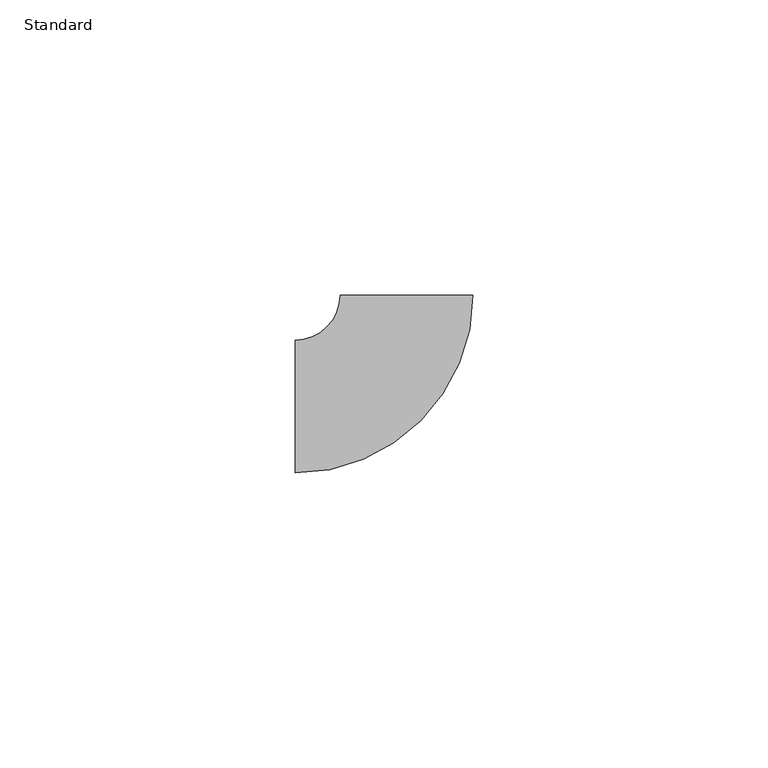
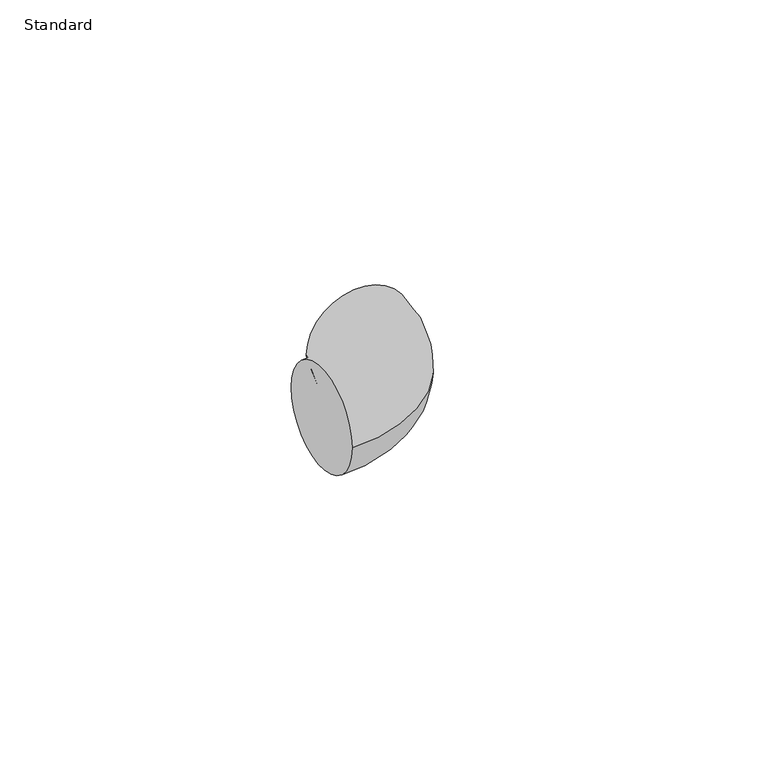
"""IFC4 building model written with IfcOpenShell, lengths in millimetres: pipe fitting geometry, Coude - Générique1 : Standard."""

import ifcopenshell
import ifcopenshell.guid

model = None  # the IFC model being written
_history = None  # IfcOwnerHistory: only IFC2X3 demands one
_inside = {}  # id of a spatial element -> (the spatial element, [elements in it])
_under = {}  # id of a project, library or spatial element -> (it, [spatial elements below it])
_declared = {}  # id of a project -> (the project, [libraries it declares])
_typed = {}  # id of a type object -> (the type object, [elements of that type])
_made_of = {}  # id of a material, layer set ... -> (it, [elements and type objects made of it])


def new_model(schema):
    """Start an empty IFC model of exactly this schema.

    Asked for "IFC4X3", IfcOpenShell would pick the latest addendum, in which some entities
    have other attributes; the version numbers below select the first issue.
    IFC2X3 requires an IfcOwnerHistory on every rooted entity: one is made here for all.
    """
    global model, _history
    if schema == "IFC4X3":
        model = ifcopenshell.file(schema_version=(4, 3, 0, 0))
    else:
        model = ifcopenshell.file(schema=schema)
    _inside.clear()
    _under.clear()
    _declared.clear()
    _typed.clear()
    _made_of.clear()
    _history = None
    if model.schema == "IFC2X3":
        org = make("IfcOrganization", Name="unknown")
        user = make(
            "IfcPersonAndOrganization",
            ThePerson=make("IfcPerson", FamilyName="unknown"),
            TheOrganization=org,
        )
        app = make(
            "IfcApplication",
            ApplicationDeveloper=org,
            Version="unknown",
            ApplicationFullName="unknown",
            ApplicationIdentifier="unknown",
        )
        _history = make(
            "IfcOwnerHistory",
            OwningUser=user,
            OwningApplication=app,
            ChangeAction="ADDED",
            CreationDate=0,
        )
    return model


def make(cls, **values):
    """One entity of the class cls with the attributes given. An attribute that is None is left unset."""
    return model.create_entity(
        cls, **{name: value for name, value in values.items() if value is not None}
    )


def rooted(cls, **values):
    """An entity with a GlobalId (a new one), such as an element, a storey or a relation."""
    return make(cls, GlobalId=ifcopenshell.guid.new(), OwnerHistory=_history, **values)


def si_unit(unit_type, name, prefix=None):
    """IfcSIUnit, for example si_unit("LENGTHUNIT", "METRE", prefix="MILLI")."""
    return make("IfcSIUnit", UnitType=unit_type, Prefix=prefix, Name=name)


def assignment(units):
    """IfcUnitAssignment: the units of a project."""
    return None if units is None else make("IfcUnitAssignment", Units=units)


def point(xyz):
    """IfcCartesianPoint."""
    return None if xyz is None else make("IfcCartesianPoint", Coordinates=xyz)


def direction(xyz):
    """IfcDirection."""
    return None if xyz is None else make("IfcDirection", DirectionRatios=xyz)


def frame(location, z_axis=None, x_axis=None):
    """IfcAxis2Placement3D, a coordinate frame: its origin and axes. An axis left out is left unset."""
    return make(
        "IfcAxis2Placement3D",
        Location=point(location),
        Axis=direction(z_axis),
        RefDirection=direction(x_axis),
    )


def origin():
    """The frame at (0, 0, 0) with its axes left unset."""
    return frame((0.0, 0.0, 0.0))


def place(relative_to, where):
    """IfcLocalPlacement: puts the frame where relative to a parent placement (None: the world)."""
    return make(
        "IfcLocalPlacement", PlacementRelTo=relative_to, RelativePlacement=where
    )


def context(
    kind, dimensions, precision=None, world=None, true_north=None, identifier=None
):
    """IfcGeometricRepresentationContext, for example the 3D "Model" context."""
    return make(
        "IfcGeometricRepresentationContext",
        ContextIdentifier=identifier,
        ContextType=kind,
        CoordinateSpaceDimension=dimensions,
        Precision=precision,
        WorldCoordinateSystem=world,
        TrueNorth=true_north,
    )


def project(units=None, contexts=None):
    """IfcProject with its units and contexts."""
    return rooted(
        "IfcProject",
        Name="project",
        RepresentationContexts=contexts,
        UnitsInContext=assignment(units),
    )


def spatial(cls, under=None, at=None, **own):
    """A site, building, storey or space (cls), placed at a placement, below another one or the project."""
    s = rooted(cls, ObjectPlacement=at, **own)
    if under is not None:
        _under.setdefault(under.id(), (under, []))[1].append(s)
    return s


def circle_curve(where, radius):
    """IfcCircle in the frame where."""
    return make("IfcCircle", Position=where, Radius=radius)


def ellipse_curve(where, semi_axis1, semi_axis2):
    """IfcEllipse in the frame where."""
    return make(
        "IfcEllipse", Position=where, SemiAxis1=semi_axis1, SemiAxis2=semi_axis2
    )


def trimmed(basis, trim1, trim2, sense, master):
    """IfcTrimmedCurve: the piece of a basis curve between two trims."""
    return make(
        "IfcTrimmedCurve",
        BasisCurve=basis,
        Trim1=trim1,
        Trim2=trim2,
        SenseAgreement=sense,
        MasterRepresentation=master,
    )


def shape(context_of_items, identifier, shape_type, items):
    """IfcShapeRepresentation: the items that make up one representation, for example the "Body"."""
    return make(
        "IfcShapeRepresentation",
        ContextOfItems=context_of_items,
        RepresentationIdentifier=identifier,
        RepresentationType=shape_type,
        Items=items,
    )


def source(mapping_origin, context_of_items, identifier, shape_type, items):
    """IfcRepresentationMap: a shape defined once, which mapped items show again and again."""
    return make(
        "IfcRepresentationMap",
        MappingOrigin=mapping_origin,
        MappedRepresentation=shape(context_of_items, identifier, shape_type, items),
    )


def transform(
    local_origin,
    x_axis=None,
    y_axis=None,
    z_axis=None,
    scale=None,
    scale2=None,
    scale3=None,
    uniform=True,
):
    """IfcCartesianTransformationOperator3D, or its non-uniform kind. x_axis, y_axis, z_axis: its Axis1, 2, 3."""
    if uniform:
        return make(
            "IfcCartesianTransformationOperator3D",
            Axis1=direction(x_axis),
            Axis2=direction(y_axis),
            LocalOrigin=point(local_origin),
            Scale=scale,
            Axis3=direction(z_axis),
        )
    return make(
        "IfcCartesianTransformationOperator3DnonUniform",
        Axis1=direction(x_axis),
        Axis2=direction(y_axis),
        LocalOrigin=point(local_origin),
        Scale=scale,
        Axis3=direction(z_axis),
        Scale2=scale2,
        Scale3=scale3,
    )


def mapped(mapping_source, mapping_target):
    """IfcMappedItem: shows the shape of a source again, moved by a transform."""
    return make(
        "IfcMappedItem", MappingSource=mapping_source, MappingTarget=mapping_target
    )


def made_of(thing, what):
    """Note that an element or type object is made of a material, layer set ...; save() writes the relation."""
    if what is not None:
        _made_of.setdefault(what.id(), (what, []))[1].append(thing)
    return thing


def element(
    cls,
    number,
    at=None,
    inside=None,
    cuts=None,
    type_object=None,
    material=None,
    context=None,
    identifier="Body",
    shape_type=None,
    held_by="IfcProductDefinitionShape",
    body=None,
    shapes=None,
    **own,
):
    """One element of the class cls, such as IfcWall. Its Tag is "e" and its number.

    at: its placement. inside: the storey or other place that contains it. cuts: it is an
    opening in that element (IfcRelVoidsElement). A single representation is given by context,
    identifier, shape_type and body (its items); several are given by shapes. held_by: the class
    of the entity that holds the representations. save() writes the other relations.
    """
    e = rooted(cls, Tag="e%d" % number, ObjectPlacement=at, **own)
    if body is not None:
        shapes = [shape(context, identifier, shape_type, body)]
    if shapes is not None:
        e.Representation = make(held_by, Representations=shapes)
    if inside is not None:
        _inside.setdefault(inside.id(), (inside, []))[1].append(e)
    if cuts is not None:
        rooted(
            "IfcRelVoidsElement", RelatingBuildingElement=cuts, RelatedOpeningElement=e
        )
    if type_object is not None:
        _typed.setdefault(type_object.id(), (type_object, []))[1].append(e)
    return made_of(e, material)


def aggregate(whole, parts):
    """IfcRelAggregates: a whole, such as a stair, and the parts it consists of."""
    return rooted("IfcRelAggregates", RelatingObject=whole, RelatedObjects=parts)


def save(model, path):
    """Write the relations noted so far, then the file.

    IfcRelAggregates (storeys below a building ...), IfcRelContainedInSpatialStructure (elements
    in a storey), IfcRelDefinesByType, IfcRelAssociatesMaterial and IfcRelDeclares: one each for
    every whole, place, type object, material and project.
    """
    for whole, parts in _under.values():
        aggregate(whole, parts)
    for where, things in _inside.values():
        rooted(
            "IfcRelContainedInSpatialStructure",
            RelatedElements=things,
            RelatingStructure=where,
        )
    for kind, things in _typed.values():
        rooted("IfcRelDefinesByType", RelatedObjects=things, RelatingType=kind)
    for what, things in _made_of.values():
        rooted("IfcRelAssociatesMaterial", RelatedObjects=things, RelatingMaterial=what)
    for by, libraries in _declared.values():
        rooted("IfcRelDeclares", RelatingContext=by, RelatedDefinitions=libraries)
    model.write(path)


def plane_surface(at):
    """IfcPlane: the flat surface through the origin of the frame at, square to its z axis."""
    return make("IfcPlane", Position=at)


def revolved_surface(curve, axis_point, axis_direction):
    """IfcSurfaceOfRevolution: the curve turned about the line through axis_point along axis_direction."""
    return make(
        "IfcSurfaceOfRevolution",
        SweptCurve=make("IfcArbitraryOpenProfileDef", ProfileType="CURVE", Curve=curve),
        AxisPosition=make("IfcAxis1Placement", Location=point(axis_point), Axis=direction(axis_direction)),
    )


def advanced_brep(points, edges, surfaces, faces):
    """IfcAdvancedBrep: a solid bounded by faces that lie on surfaces and meet in shared edges.

    An edge is (start, end): straight between two places in points (the first is 0);
    or (start, end, curve); or (start, end, curve, False) where it runs against its curve.
    A face is (place in surfaces, loops), or (place, loops, False) where it looks against
    its surface's normal. A loop lists edges by number (the first is 1), with a minus sign
    where the edge is run from its end to its start. The first loop is the outer one.
    """
    corners = [point(p) for p in points]
    vertices = [make("IfcVertexPoint", VertexGeometry=c) for c in corners]
    made = []
    for start, end, *more in edges:
        made.append(
            make(
                "IfcEdgeCurve",
                EdgeStart=vertices[start],
                EdgeEnd=vertices[end],
                EdgeGeometry=more[0] if more else make("IfcPolyline", Points=[corners[start], corners[end]]),
                SameSense=more[1] if len(more) > 1 else True,
            )
        )
    hull = []
    for where, loops, *sense in faces:
        bounds = []
        for j, loop in enumerate(loops):
            ring = [make("IfcOrientedEdge", EdgeElement=made[abs(k) - 1], Orientation=k > 0) for k in loop]
            bounds.append(
                make(
                    "IfcFaceOuterBound" if j == 0 else "IfcFaceBound",
                    Bound=make("IfcEdgeLoop", EdgeList=ring),
                    Orientation=True,
                )
            )
        hull.append(make("IfcAdvancedFace", Bounds=bounds, FaceSurface=surfaces[where], SameSense=sense[0] if sense else True))
    return make("IfcAdvancedBrep", Outer=make("IfcClosedShell", CfsFaces=hull))


def standard_2678962f(model_context):
    return source(origin(), model_context, "Body", "AdvancedBrep", [
        advanced_brep(
        [(-18.9117187, -11.25, 0.0), (-18.9117187, 11.25, 0.0), (11.25, 18.9117187, 0.0), (-11.25, 18.9117187, 0.0)],
        [
            (0, 1, circle_curve(frame((-18.9117187, 0.0, 0.0), z_axis=(-1.0, 0.0, 0.0), x_axis=(0.0, 1.0, 0.0)), 11.25)),
            (1, 0, circle_curve(frame((-18.9117187, 0.0, 0.0), z_axis=(-1.0, 0.0, 0.0), x_axis=(0.0, 1.0, 0.0)), 11.25)),
            (2, 3, circle_curve(frame((0.0, 18.9117187, 0.0), z_axis=(0.0, 1.0, 0.0), x_axis=(-1.0, 0.0, 0.0)), 11.25)),
            (3, 2, circle_curve(frame((0.0, 18.9117187, 0.0), z_axis=(0.0, 1.0, 0.0), x_axis=(-1.0, 0.0, 0.0)), 11.25)),
            (3, 1, circle_curve(frame((-18.9117187, 18.9117187, 0.0), z_axis=(0.0, 0.0, -1.0), x_axis=(0.0, -1.0, 0.0)), 7.6617188)),
            (0, 2, circle_curve(frame((-18.9117187, 18.9117187, 0.0), z_axis=(0.0, 0.0, 1.0), x_axis=(0.0, -1.0, 0.0)), 30.1617188)),
        ],
        [
            plane_surface(frame((-18.9117187, 0.0, 0.0), z_axis=(-1.0, 0.0, 0.0), x_axis=(0.0, 0.0, 1.0))),
            plane_surface(frame((0.0, 18.9117187, 0.0), z_axis=(0.0, 1.0, 0.0), x_axis=(0.0, 0.0, 1.0))),
            revolved_surface(trimmed(ellipse_curve(frame((-18.9117187, 0.0, 0.0), z_axis=(-1.0, 0.0, 0.0), x_axis=(0.0, 1.0, 0.0)), 11.25, 11.25), [point((-18.9117187, -11.25, 0.0))], [point((-18.9117187, 11.25, 0.0))], True, "CARTESIAN"), (-18.9117187, 18.9117187, 0.0), (0.0, 0.0, 1.0)),
            revolved_surface(trimmed(ellipse_curve(frame((-18.9117187, 0.0, 0.0), z_axis=(-1.0, 0.0, 0.0), x_axis=(0.0, 1.0, 0.0)), 11.25, 11.25), [point((-18.9117187, 11.25, 0.0))], [point((-18.9117187, -11.25, 0.0))], True, "CARTESIAN"), (-18.9117187, 18.9117187, 0.0), (0.0, 0.0, 1.0)),
        ],
        [
            (0, [[1, 2]]),
            (1, [[3, 4]]),
            (2, [[5, -1, 6, -4]]),
            (3, [[-6, -2, -5, -3]]),
        ],
    ),
    ])


if __name__ == "__main__":
    model = new_model("IFC4")
    model_context = context("Model", 3, world=origin())
    ifc_project = project(units=[si_unit("LENGTHUNIT", "METRE", prefix="MILLI")], contexts=[model_context])
    site = spatial("IfcSite", under=ifc_project)
    building = spatial("IfcBuilding", under=site)
    placement = place(None, origin())
    standard_shape = standard_2678962f(model_context)
    element("IfcPipeFitting", 1, ObjectType="Coude - Générique1 : Standard", at=placement, inside=building, context=model_context, shape_type="MappedRepresentation", body=[
        mapped(standard_shape, transform((0.0, 0.0, 0.0), x_axis=(1.0, 0.0, 0.0), y_axis=(0.0, 1.0, 0.0), z_axis=(0.0, 0.0, 1.0))),
    ])
    save(model, "model.ifc")
